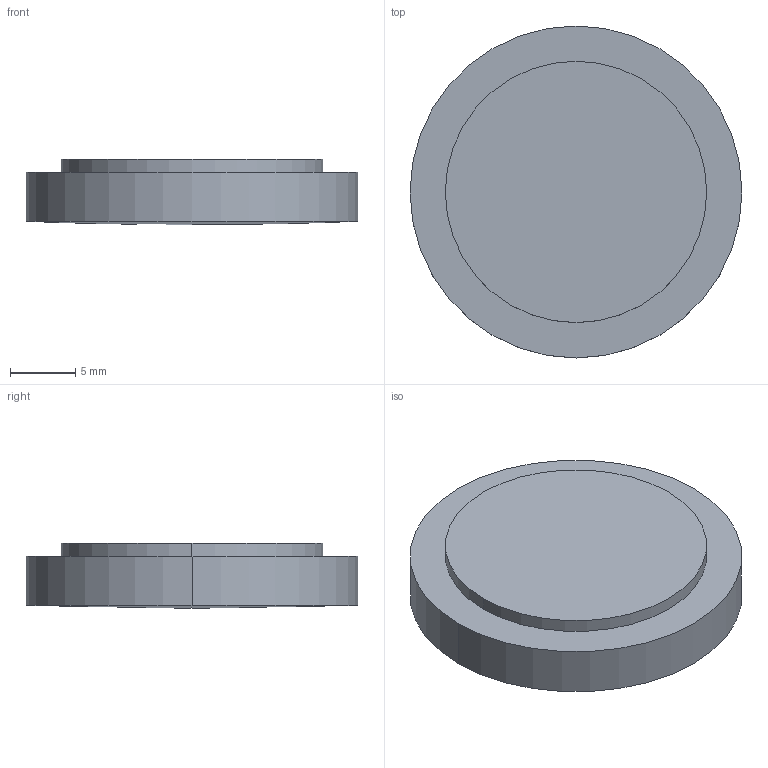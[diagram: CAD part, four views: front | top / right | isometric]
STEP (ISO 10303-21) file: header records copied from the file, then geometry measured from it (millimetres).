
FILE_DESCRIPTION(('STEP AP214'),'1');
FILE_NAME('LLZ-25240.STEP','2020-03-09T17:42:32',(' '),(' '),'Spatial InterOp 3D',' ',' ');
FILE_SCHEMA(('AUTOMOTIVE_DESIGN { 1 0 10303 214 1 1 1 1 }'));
Length unit declared in the file: millimetre
Products named in the file (1): 1
Bounding box: 25.4 x 25.4 x 5 mm (x, y, z)
Volume: 2278.1 mm3; surface area: 2004.1 mm2
Topology: 2 solids, 2 shells, 9 faces, 16 edges, 9 vertices
Faces by surface type: cylinder 4, plane 3, sphere 2
Entity records: 229 total; most frequent: DIRECTION 46, CARTESIAN_POINT 34, ORIENTED_EDGE 28, AXIS2_PLACEMENT_3D 21, EDGE_CURVE 14, CIRCLE 10, ADVANCED_FACE 9, FACE_OUTER_BOUND 9
